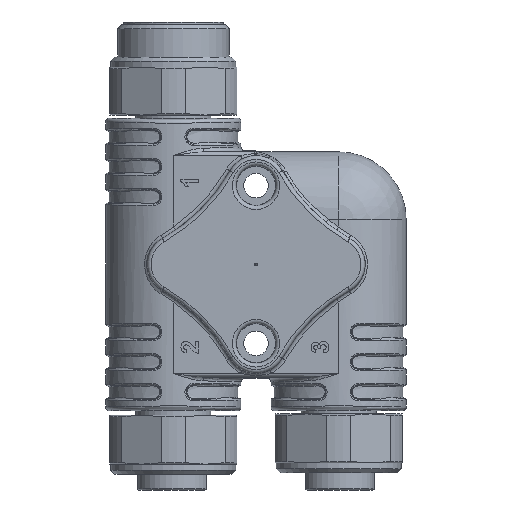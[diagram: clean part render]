
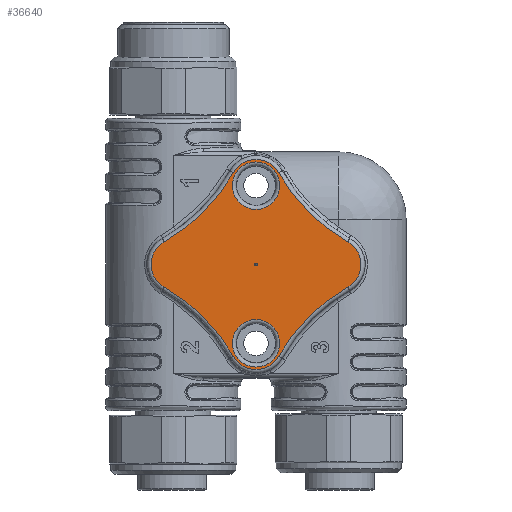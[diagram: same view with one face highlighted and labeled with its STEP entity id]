
A CAD part, front view. The second image highlights one B-rep face of the part: STEP entity #36640.
In plain terms, the highlighted planar face has unit normal (0, -1, 0).
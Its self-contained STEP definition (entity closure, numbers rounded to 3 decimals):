
#6455=PLANE('',#39607);
#6967=FACE_BOUND('',#10559,.T.);
#6968=FACE_BOUND('',#10560,.T.);
#6969=FACE_BOUND('',#10561,.T.);
#8119=FACE_OUTER_BOUND('',#10558,.T.);
#10558=EDGE_LOOP('',(#28594,#28595,#28596,#28597,#28598,#28599,#28600,#28601));
#10559=EDGE_LOOP('',(#28602));
#10560=EDGE_LOOP('',(#28603));
#10561=EDGE_LOOP('',(#28604));
#12585=CIRCLE('',#38981,0.25);
#12599=CIRCLE('',#39001,5.226);
#12605=CIRCLE('',#39009,4.737);
#12608=CIRCLE('',#39014,4.737);
#12778=CIRCLE('',#39585,36.524);
#12781=CIRCLE('',#39589,5.226);
#12782=CIRCLE('',#39591,5.226);
#12787=CIRCLE('',#39597,36.524);
#12788=CIRCLE('',#39599,36.524);
#12791=CIRCLE('',#39603,5.226);
#12792=CIRCLE('',#39605,36.524);
#16228=VERTEX_POINT('',#56474);
#16251=VERTEX_POINT('',#56583);
#16252=VERTEX_POINT('',#56584);
#16257=VERTEX_POINT('',#56597);
#16260=VERTEX_POINT('',#56605);
#17049=VERTEX_POINT('',#72825);
#17051=VERTEX_POINT('',#72829);
#17053=VERTEX_POINT('',#72835);
#17054=VERTEX_POINT('',#72839);
#17056=VERTEX_POINT('',#72846);
#17057=VERTEX_POINT('',#72853);
#20158=EDGE_CURVE('',#16228,#16228,#12585,.T.);
#20182=EDGE_CURVE('',#16251,#16252,#12599,.T.);
#20188=EDGE_CURVE('',#16257,#16257,#12605,.T.);
#20191=EDGE_CURVE('',#16260,#16260,#12608,.T.);
#21332=EDGE_CURVE('',#17051,#17049,#12778,.T.);
#21335=EDGE_CURVE('',#17053,#17051,#12781,.T.);
#21336=EDGE_CURVE('',#17049,#17054,#12782,.T.);
#21341=EDGE_CURVE('',#17056,#17053,#12787,.T.);
#21342=EDGE_CURVE('',#17054,#16251,#12788,.T.);
#21345=EDGE_CURVE('',#17057,#17056,#12791,.T.);
#21346=EDGE_CURVE('',#16252,#17057,#12792,.T.);
#28594=ORIENTED_EDGE('',*,*,#21346,.F.);
#28595=ORIENTED_EDGE('',*,*,#20182,.F.);
#28596=ORIENTED_EDGE('',*,*,#21342,.F.);
#28597=ORIENTED_EDGE('',*,*,#21336,.F.);
#28598=ORIENTED_EDGE('',*,*,#21332,.F.);
#28599=ORIENTED_EDGE('',*,*,#21335,.F.);
#28600=ORIENTED_EDGE('',*,*,#21341,.F.);
#28601=ORIENTED_EDGE('',*,*,#21345,.F.);
#28602=ORIENTED_EDGE('',*,*,#20191,.F.);
#28603=ORIENTED_EDGE('',*,*,#20188,.F.);
#28604=ORIENTED_EDGE('',*,*,#20158,.T.);
#36640=ADVANCED_FACE('',(#8119,#6967,#6968,#6969),#6455,.F.);
#38981=AXIS2_PLACEMENT_3D('',#56475,#44090,#44091);
#39001=AXIS2_PLACEMENT_3D('',#56585,#44132,#44133);
#39009=AXIS2_PLACEMENT_3D('',#56598,#44148,#44149);
#39014=AXIS2_PLACEMENT_3D('',#56606,#44158,#44159);
#39585=AXIS2_PLACEMENT_3D('',#72831,#45734,#45735);
#39589=AXIS2_PLACEMENT_3D('',#72837,#45742,#45743);
#39591=AXIS2_PLACEMENT_3D('',#72840,#45746,#45747);
#39597=AXIS2_PLACEMENT_3D('',#72848,#45758,#45759);
#39599=AXIS2_PLACEMENT_3D('',#72850,#45762,#45763);
#39603=AXIS2_PLACEMENT_3D('',#72855,#45770,#45771);
#39605=AXIS2_PLACEMENT_3D('',#72857,#45774,#45775);
#39607=AXIS2_PLACEMENT_3D('',#72859,#45778,#45779);
#44090=DIRECTION('center_axis',(0.,1.,0.));
#44091=DIRECTION('ref_axis',(0.,0.,1.));
#44132=DIRECTION('center_axis',(0.,1.,0.));
#44133=DIRECTION('ref_axis',(1.,0.,0.));
#44148=DIRECTION('center_axis',(0.,-1.,0.));
#44149=DIRECTION('ref_axis',(0.,0.,-1.));
#44158=DIRECTION('center_axis',(0.,-1.,0.));
#44159=DIRECTION('ref_axis',(0.,0.,-1.));
#45734=DIRECTION('center_axis',(0.,-1.,0.));
#45735=DIRECTION('ref_axis',(0.,0.,-1.));
#45742=DIRECTION('center_axis',(0.,1.,0.));
#45743=DIRECTION('ref_axis',(1.,0.,0.));
#45746=DIRECTION('center_axis',(0.,1.,0.));
#45747=DIRECTION('ref_axis',(1.,0.,0.));
#45758=DIRECTION('center_axis',(0.,-1.,0.));
#45759=DIRECTION('ref_axis',(0.,0.,-1.));
#45762=DIRECTION('center_axis',(0.,-1.,0.));
#45763=DIRECTION('ref_axis',(0.,0.,-1.));
#45770=DIRECTION('center_axis',(0.,1.,0.));
#45771=DIRECTION('ref_axis',(1.,0.,0.));
#45774=DIRECTION('center_axis',(0.,-1.,0.));
#45775=DIRECTION('ref_axis',(0.,0.,-1.));
#45778=DIRECTION('center_axis',(0.,1.,0.));
#45779=DIRECTION('ref_axis',(0.,0.,1.));
#56474=CARTESIAN_POINT('',(-1.738,-20.043,0.001));
#56475=CARTESIAN_POINT('Origin',(-1.488,-20.043,0.001));
#56583=CARTESIAN_POINT('',(16.838,-20.043,4.548));
#56584=CARTESIAN_POINT('',(16.838,-20.043,-4.546));
#56585=CARTESIAN_POINT('Origin',(14.262,-20.043,0.001));
#56597=CARTESIAN_POINT('',(3.249,-20.043,15.751));
#56598=CARTESIAN_POINT('Origin',(-1.488,-20.043,15.751));
#56605=CARTESIAN_POINT('',(3.249,-20.043,-15.749));
#56606=CARTESIAN_POINT('Origin',(-1.488,-20.043,-15.749));
#72825=CARTESIAN_POINT('',(-6.035,-20.043,18.327));
#72829=CARTESIAN_POINT('',(-19.814,-20.043,4.548));
#72831=CARTESIAN_POINT('Origin',(-37.815,-20.043,36.328));
#72835=CARTESIAN_POINT('',(-19.814,-20.043,-4.546));
#72837=CARTESIAN_POINT('Origin',(-17.238,-20.043,0.001));
#72839=CARTESIAN_POINT('',(3.059,-20.043,18.327));
#72840=CARTESIAN_POINT('Origin',(-1.488,-20.043,15.751));
#72846=CARTESIAN_POINT('',(-6.035,-20.043,-18.325));
#72848=CARTESIAN_POINT('Origin',(-37.815,-20.043,-36.326));
#72850=CARTESIAN_POINT('Origin',(34.839,-20.043,36.328));
#72853=CARTESIAN_POINT('',(3.059,-20.043,-18.325));
#72855=CARTESIAN_POINT('Origin',(-1.488,-20.043,-15.749));
#72857=CARTESIAN_POINT('Origin',(34.839,-20.043,-36.326));
#72859=CARTESIAN_POINT('Origin',(-1.488,-20.043,0.001));
